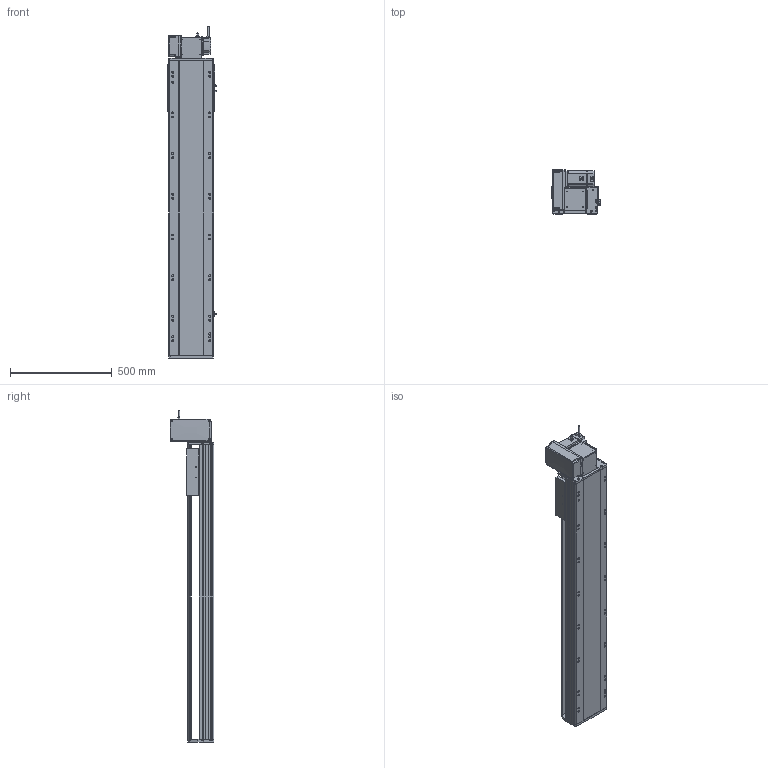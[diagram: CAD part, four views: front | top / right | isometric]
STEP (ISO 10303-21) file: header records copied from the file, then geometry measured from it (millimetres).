
FILE_DESCRIPTION (( 'STEP AP214' ), '1' );
FILE_NAME ('RTB22S-XX-1100-LW-M75-C4.STEP', '2025-12-12T05:55:51', ( '' ), ( '' ), 'SwSTEP 2.0', 'SolidWorks 2018', '' );
FILE_SCHEMA (( 'AUTOMOTIVE_DESIGN' ));
Length unit declared in the file: millimetre
Products named in the file (14): RTB22S-GY-007奻裔^RTB22S-XX-XX-LW-M75-C4; RTB22S-GY-014--々湍釱^RTB22S-LW-々湍釱蚾饜_RTB22S-XX-XX-LW-M75-C4; RTB22S-GY-017P^RTB22S-LW-々湍釱蚾饜_RTB22S-XX-XX-LW-M75-C4; RTB22S-GY-001耜裔^RTB22S-XX-XX-LW-M75-C4; RTB22S-L-004賑釱^RTB22S-XX-XX-LW-M75-C4; RTB22S-XX-1100-LW-M75-C4; RTB22S-LW-々湍釱蚾饜^RTB22S-XX-XX-LW-M75-C4; RTB22S-L-011菁釱^RTB22S-XX-XX-LW-M75-C4; RTB22S-GY-005P^RTB22S-LW-々湍釱蚾饜_RTB22S-XX-XX-LW-M75-C4; RTB22S-GY-018P^RTB22S-LW-々湍釱蚾饜_RTB22S-XX-XX-LW-M75-C4; 750W萇儂^RTB22S-XX-XX-LW-M75-C4; RTH22-GY-013外置感应片^RTB22S-XX-XX-LW-M75-C4; RTB22S-GY-008-M75--萇儂啣^RTB22S-LW-々湍釱蚾饜_RTB22S-XX-XX-LW-M75-C4; OMRON EE-SX672 传感器^RTB22S-XX-XX-LW-M75-C4
Assembly tree (16 placements, depth 3):
  RTB22S-XX-1100-LW-M75-C4
    RTB22S-L-011菁釱^RTB22S-XX-XX-LW-M75-C4
    RTB22S-GY-001耜裔^RTB22S-XX-XX-LW-M75-C4
    750W萇儂^RTB22S-XX-XX-LW-M75-C4
    RTB22S-GY-007奻裔^RTB22S-XX-XX-LW-M75-C4
    RTB22S-L-004賑釱^RTB22S-XX-XX-LW-M75-C4
    RTH22-GY-013外置感应片^RTB22S-XX-XX-LW-M75-C4
    OMRON EE-SX672 传感器^RTB22S-XX-XX-LW-M75-C4  x3
    RTB22S-LW-々湍釱蚾饜^RTB22S-XX-XX-LW-M75-C4
      RTB22S-GY-014--々湍釱^RTB22S-LW-々湍釱蚾饜_RTB22S-XX-XX-LW-M75-C4
      RTB22S-GY-017P^RTB22S-LW-々湍釱蚾饜_RTB22S-XX-XX-LW-M75-C4  x2
      RTB22S-GY-005P^RTB22S-LW-々湍釱蚾饜_RTB22S-XX-XX-LW-M75-C4
      RTB22S-GY-008-M75--萇儂啣^RTB22S-LW-々湍釱蚾饜_RTB22S-XX-XX-LW-M75-C4
      RTB22S-GY-018P^RTB22S-LW-々湍釱蚾饜_RTB22S-XX-XX-LW-M75-C4
Bounding box: 238.5 x 215.5 x 1632.2 mm (x, y, z)
Volume: 22452916.4 mm3; surface area: 2333211.9 mm2
Topology: 15 solids, 15 shells, 1983 faces, 5386 edges, 3452 vertices
Faces by surface type: plane 915, cylinder 622, bspline 296, cone 138, sphere 8, torus 4
Entity records: 52768 total; most frequent: CARTESIAN_POINT 15172, ORIENTED_EDGE 7560, DIRECTION 7274, EDGE_CURVE 3780, AXIS2_PLACEMENT_3D 2566, VERTEX_POINT 2456, VECTOR 2142, LINE 2142
